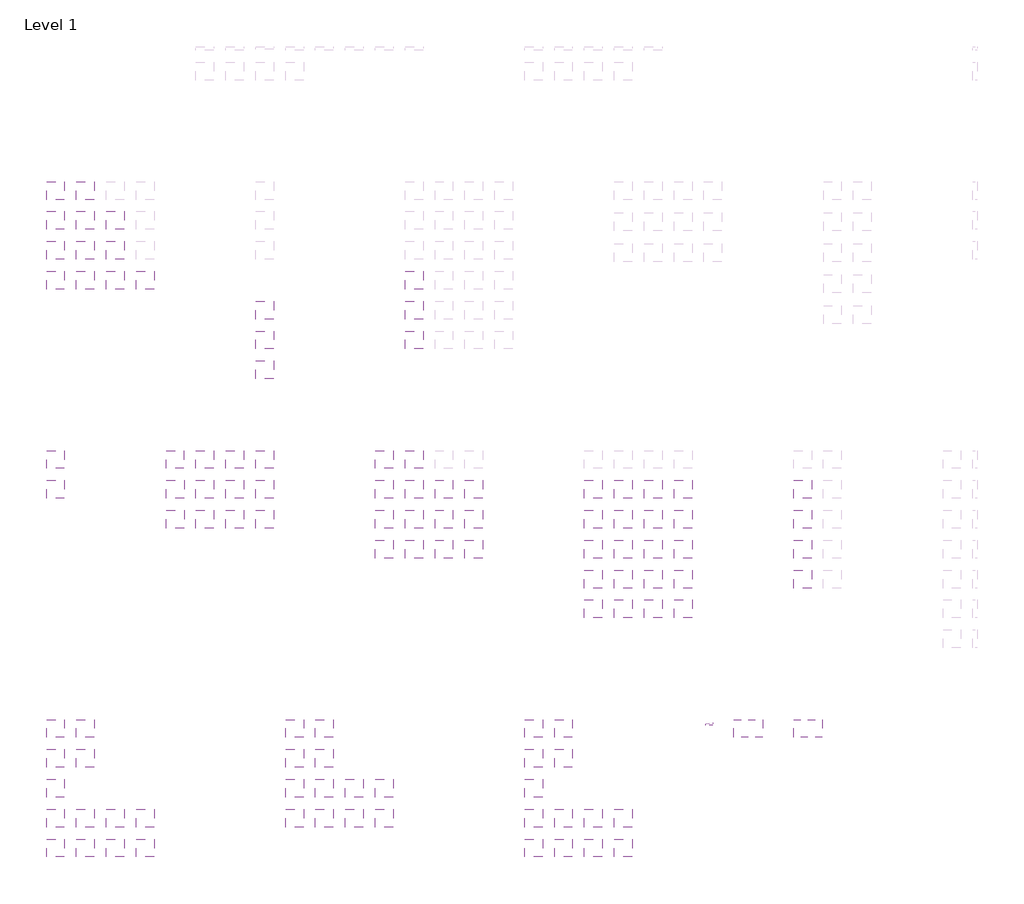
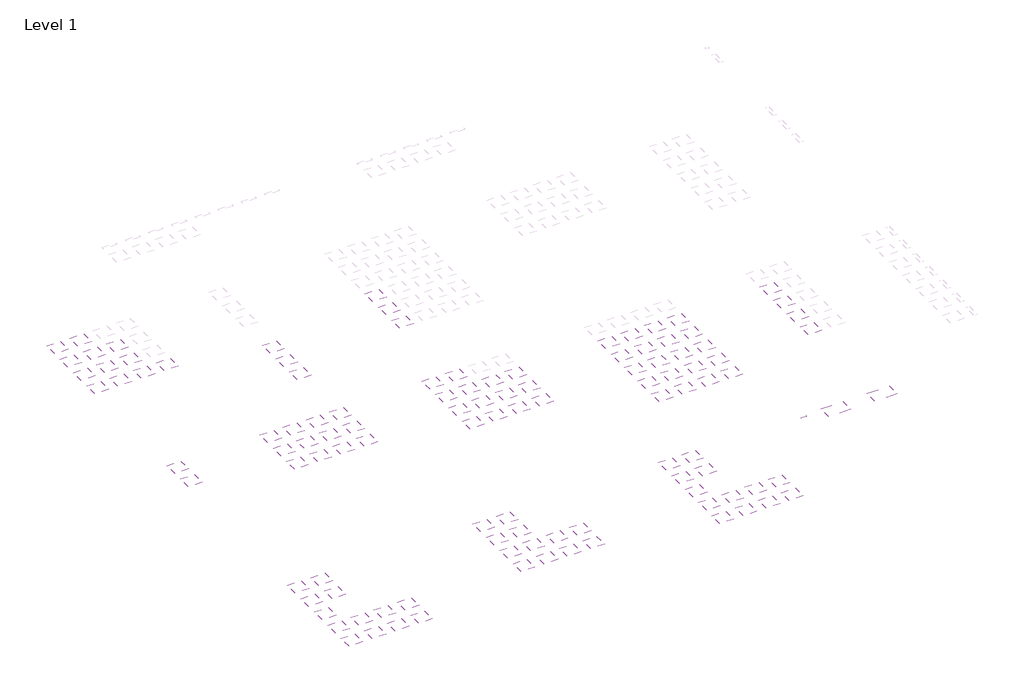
# One storey, part 1 of 4: 111 coverings.
"""IFC4 building model written with IfcOpenShell, lengths in millimetres."""

from ifc_helpers import new_model, si_unit, frame, origin, place, context, project, spatial, polyline, outline, extrude, element, save

model = new_model("IFC4")

# Units and contexts
model_context = context("Model", 3, world=origin())
ifc_project = project(units=[si_unit("LENGTHUNIT", "METRE", prefix="MILLI")], contexts=[model_context])

# Site, building, storey
site = spatial("IfcSite", under=ifc_project)
building = spatial("IfcBuilding", under=site)
storey = spatial("IfcBuildingStorey", under=building, Name="Level 1", Elevation=0.0)

# Coverings
placement = place(None, origin())
element("IfcCovering", 1, ObjectType="OWA Sinfonia l Humancare S3 600x600_15", at=placement, inside=storey, context=model_context, shape_type="SweptSolid", body=[
    extrude(outline(polyline([(58112.2416021, -61373.3850129), (58112.2416021, -64373.3850129), (55112.2416021, -64373.3850129), (55112.2416021, -61373.3850129), (58112.2416021, -61373.3850129)])), frame((0.0, 0.0, 2600.0), z_axis=(0.0, 0.0, 1.0), x_axis=(1.0, 0.0, 0.0)), (0.0, 0.0, 1.0), 38.0),
])
element("IfcCovering", 2, ObjectType="OWA Sinfonia l Humancare S3a 625x625_15", at=placement, inside=storey, context=model_context, shape_type="SweptSolid", body=[
    extrude(outline(polyline([(68112.2416021, -66373.3850129), (68112.2416021, -69373.3850129), (65112.2416021, -69373.3850129), (65112.2416021, -66373.3850129), (68112.2416021, -66373.3850129)])), frame((0.0, 0.0, 2600.0), z_axis=(0.0, 0.0, 1.0), x_axis=(1.0, 0.0, 0.0)), (0.0, 0.0, 1.0), 38.0),
])
element("IfcCovering", 3, ObjectType="OWA Sinfonia l Humancare S15a cliq 600x600_15", at=placement, inside=storey, context=model_context, shape_type="SweptSolid", body=[
    extrude(outline(polyline([(58112.2416021, -76373.3850129), (58112.2416021, -79373.3850129), (55112.2416021, -79373.3850129), (55112.2416021, -76373.3850129), (58112.2416021, -76373.3850129)])), frame((0.0, 0.0, 2600.0), z_axis=(0.0, 0.0, 1.0), x_axis=(1.0, 0.0, 0.0)), (0.0, 0.0, 1.0), 38.0),
])
element("IfcCovering", 4, ObjectType="OWA Sinfonia l Humancare S3a 600x600_15", at=placement, inside=storey, context=model_context, shape_type="SweptSolid", body=[
    extrude(outline(polyline([(58112.2416021, -66373.3850129), (58112.2416021, -69373.3850129), (55112.2416021, -69373.3850129), (55112.2416021, -66373.3850129), (58112.2416021, -66373.3850129)])), frame((0.0, 0.0, 2600.0), z_axis=(0.0, 0.0, 1.0), x_axis=(1.0, 0.0, 0.0)), (0.0, 0.0, 1.0), 38.0),
])
element("IfcCovering", 5, ObjectType="OWA Sinfonia l Humancare S15a cliq 625x625_15", at=placement, inside=storey, context=model_context, shape_type="SweptSolid", body=[
    extrude(outline(polyline([(68112.2416021, -76373.3850129), (68112.2416021, -79373.3850129), (65112.2416021, -79373.3850129), (65112.2416021, -76373.3850129), (68112.2416021, -76373.3850129)])), frame((0.0, 0.0, 2600.0), z_axis=(0.0, 0.0, 1.0), x_axis=(1.0, 0.0, 0.0)), (0.0, 0.0, 1.0), 38.0),
])
element("IfcCovering", 6, ObjectType="OWA Sinfonia l Humancare S15a cliq 600x1200_15", at=placement, inside=storey, context=model_context, shape_type="SweptSolid", body=[
    extrude(outline(polyline([(63112.2416021, -76373.3850129), (63112.2416021, -79373.3850129), (60112.2416021, -79373.3850129), (60112.2416021, -76373.3850129), (63112.2416021, -76373.3850129)])), frame((0.0, 0.0, 2600.0), z_axis=(0.0, 0.0, 1.0), x_axis=(1.0, 0.0, 0.0)), (0.0, 0.0, 1.0), 38.0),
])
element("IfcCovering", 7, ObjectType="OWA Sinfonia l Humancare S3 600x1200_15", at=placement, inside=storey, context=model_context, shape_type="SweptSolid", body=[
    extrude(outline(polyline([(63112.2416021, -61373.3850129), (63112.2416021, -64373.3850129), (60112.2416021, -64373.3850129), (60112.2416021, -61373.3850129), (63112.2416021, -61373.3850129)])), frame((0.0, 0.0, 2600.0), z_axis=(0.0, 0.0, 1.0), x_axis=(1.0, 0.0, 0.0)), (0.0, 0.0, 1.0), 38.0),
])
element("IfcCovering", 8, ObjectType="OWA Sinfonia l Humancare S3a 625x1250_15", at=placement, inside=storey, context=model_context, shape_type="SweptSolid", body=[
    extrude(outline(polyline([(73110.2416021, -66373.3850129), (73110.2416021, -69373.3850129), (70110.2416021, -69373.3850129), (70110.2416021, -66373.3850129), (73110.2416021, -66373.3850129)])), frame((0.0, 0.0, 2600.0), z_axis=(0.0, 0.0, 1.0), x_axis=(1.0, 0.0, 0.0)), (0.0, 0.0, 1.0), 38.0),
])
element("IfcCovering", 9, ObjectType="OWA Sinfonia l Humancare S3a 600x1200_15", at=placement, inside=storey, context=model_context, shape_type="SweptSolid", body=[
    extrude(outline(polyline([(63112.2416021, -66373.3850129), (63112.2416021, -69373.3850129), (60112.2416021, -69373.3850129), (60112.2416021, -66373.3850129), (63112.2416021, -66373.3850129)])), frame((0.0, 0.0, 2600.0), z_axis=(0.0, 0.0, 1.0), x_axis=(1.0, 0.0, 0.0)), (0.0, 0.0, 1.0), 38.0),
])
element("IfcCovering", 10, ObjectType="OWA Sinfonia l Humancare S15a cliq 625x1250_15", at=placement, inside=storey, context=model_context, shape_type="SweptSolid", body=[
    extrude(outline(polyline([(73112.2416021, -76373.3850129), (73112.2416021, -79373.3850129), (70112.2416021, -79373.3850129), (70112.2416021, -76373.3850129), (73112.2416021, -76373.3850129)])), frame((0.0, 0.0, 2600.0), z_axis=(0.0, 0.0, 1.0), x_axis=(1.0, 0.0, 0.0)), (0.0, 0.0, 1.0), 38.0),
])
element("IfcCovering", 11, ObjectType="OWA New Sandila/N S15 cliq 600x600_15", at=placement, inside=storey, context=model_context, shape_type="SweptSolid", body=[
    extrude(outline(polyline([(63114.2416021, -36373.3850129), (63114.2416021, -39373.3850129), (60114.2416021, -39373.3850129), (60114.2416021, -36373.3850129), (63114.2416021, -36373.3850129)])), frame((0.0, 0.0, 2600.0), z_axis=(0.0, 0.0, 1.0), x_axis=(1.0, 0.0, 0.0)), (0.0, 0.0, 1.0), 38.0),
])
element("IfcCovering", 12, ObjectType="OWA New Sandila/N S15a cliq 600x600_15", at=placement, inside=storey, context=model_context, shape_type="SweptSolid", body=[
    extrude(outline(polyline([(63114.2416021, -41373.3850129), (63114.2416021, -44373.3850129), (60114.2416021, -44373.3850129), (60114.2416021, -41373.3850129), (63114.2416021, -41373.3850129)])), frame((0.0, 0.0, 2600.0), z_axis=(0.0, 0.0, 1.0), x_axis=(1.0, 0.0, 0.0)), (0.0, 0.0, 1.0), 38.0),
])
element("IfcCovering", 13, ObjectType="OWA New Sandila/N S3a cliq 600x600_15", at=placement, inside=storey, context=model_context, shape_type="SweptSolid", body=[
    extrude(outline(polyline([(63114.2416021, -31373.3850129), (63114.2416021, -34373.3850129), (60114.2416021, -34373.3850129), (60114.2416021, -31373.3850129), (63114.2416021, -31373.3850129)])), frame((0.0, 0.0, 2600.0), z_axis=(0.0, 0.0, 1.0), x_axis=(1.0, 0.0, 0.0)), (0.0, 0.0, 1.0), 38.0),
])
element("IfcCovering", 14, ObjectType="OWA Sinfonia grey S3 600x600_15", at=placement, inside=storey, context=model_context, shape_type="SweptSolid", body=[
    extrude(outline(polyline([(23110.2416021, -61373.3850129), (23110.2416021, -64373.3850129), (20110.2416021, -64373.3850129), (20110.2416021, -61373.3850129), (23110.2416021, -61373.3850129)])), frame((0.0, 0.0, 2600.0), z_axis=(0.0, 0.0, 1.0), x_axis=(1.0, 0.0, 0.0)), (0.0, 0.0, 1.0), 38.0),
])
element("IfcCovering", 15, ObjectType="OWA Sinfonia grey S3 625x625_15", at=placement, inside=storey, context=model_context, shape_type="SweptSolid", body=[
    extrude(outline(polyline([(33110.2416021, -61373.3850129), (33110.2416021, -64373.3850129), (30110.2416021, -64373.3850129), (30110.2416021, -61373.3850129), (33110.2416021, -61373.3850129)])), frame((0.0, 0.0, 2600.0), z_axis=(0.0, 0.0, 1.0), x_axis=(1.0, 0.0, 0.0)), (0.0, 0.0, 1.0), 38.0),
])
element("IfcCovering", 16, ObjectType="OWA Sinfonia grey S3 600x1200_15", at=placement, inside=storey, context=model_context, shape_type="SweptSolid", body=[
    extrude(outline(polyline([(28112.2416021, -61373.3850129), (28112.2416021, -64373.3850129), (25112.2416021, -64373.3850129), (25112.2416021, -61373.3850129), (28112.2416021, -61373.3850129)])), frame((0.0, 0.0, 2600.0), z_axis=(0.0, 0.0, 1.0), x_axis=(1.0, 0.0, 0.0)), (0.0, 0.0, 1.0), 38.0),
])
element("IfcCovering", 17, ObjectType="OWA Sinfonia grey S3 625x1250_15", at=placement, inside=storey, context=model_context, shape_type="SweptSolid", body=[
    extrude(outline(polyline([(38112.2416021, -61373.3850129), (38112.2416021, -64373.3850129), (35112.2416021, -64373.3850129), (35112.2416021, -61373.3850129), (38112.2416021, -61373.3850129)])), frame((0.0, 0.0, 2600.0), z_axis=(0.0, 0.0, 1.0), x_axis=(1.0, 0.0, 0.0)), (0.0, 0.0, 1.0), 38.0),
])
element("IfcCovering", 18, ObjectType="OWA Sinfonia grey S3 cliq 600x600_15", at=placement, inside=storey, context=model_context, shape_type="SweptSolid", body=[
    extrude(outline(polyline([(23112.2416021, -66373.3850129), (23112.2416021, -69373.3850129), (20112.2416021, -69373.3850129), (20112.2416021, -66373.3850129), (23112.2416021, -66373.3850129)])), frame((0.0, 0.0, 2600.0), z_axis=(0.0, 0.0, 1.0), x_axis=(1.0, 0.0, 0.0)), (0.0, 0.0, 1.0), 38.0),
])
element("IfcCovering", 19, ObjectType="OWA Sinfonia grey S3 cliq 625x625_15", at=placement, inside=storey, context=model_context, shape_type="SweptSolid", body=[
    extrude(outline(polyline([(33110.2416021, -66373.3850129), (33110.2416021, -69373.3850129), (30110.2416021, -69373.3850129), (30110.2416021, -66373.3850129), (33110.2416021, -66373.3850129)])), frame((0.0, 0.0, 2600.0), z_axis=(0.0, 0.0, 1.0), x_axis=(1.0, 0.0, 0.0)), (0.0, 0.0, 1.0), 38.0),
])
element("IfcCovering", 20, ObjectType="OWA Sinfonia grey S3 cliq 600x1200_15", at=placement, inside=storey, context=model_context, shape_type="SweptSolid", body=[
    extrude(outline(polyline([(28112.2416021, -66373.3850129), (28112.2416021, -69373.3850129), (25112.2416021, -69373.3850129), (25112.2416021, -66373.3850129), (28112.2416021, -66373.3850129)])), frame((0.0, 0.0, 2600.0), z_axis=(0.0, 0.0, 1.0), x_axis=(1.0, 0.0, 0.0)), (0.0, 0.0, 1.0), 38.0),
])
element("IfcCovering", 21, ObjectType="OWA Sinfonia grey S3 cliq 625x1250_15", at=placement, inside=storey, context=model_context, shape_type="SweptSolid", body=[
    extrude(outline(polyline([(38112.2416021, -66373.3850129), (38112.2416021, -69373.3850129), (35112.2416021, -69373.3850129), (35112.2416021, -66373.3850129), (38112.2416021, -66373.3850129)])), frame((0.0, 0.0, 2600.0), z_axis=(0.0, 0.0, 1.0), x_axis=(1.0, 0.0, 0.0)), (0.0, 0.0, 1.0), 38.0),
])
element("IfcCovering", 22, ObjectType="OWA Sinfonia grey S15 cliq 600x600_15", at=placement, inside=storey, context=model_context, shape_type="SweptSolid", body=[
    extrude(outline(polyline([(23112.2416021, -71373.3850129), (23112.2416021, -74373.3850129), (20112.2416021, -74373.3850129), (20112.2416021, -71373.3850129), (23112.2416021, -71373.3850129)])), frame((0.0, 0.0, 2600.0), z_axis=(0.0, 0.0, 1.0), x_axis=(1.0, 0.0, 0.0)), (0.0, 0.0, 1.0), 38.0),
])
element("IfcCovering", 23, ObjectType="OWA Sinfonia grey S15 cliq 625x625_15", at=placement, inside=storey, context=model_context, shape_type="SweptSolid", body=[
    extrude(outline(polyline([(33110.2416021, -71373.3850129), (33110.2416021, -74373.3850129), (30110.2416021, -74373.3850129), (30110.2416021, -71373.3850129), (33110.2416021, -71373.3850129)])), frame((0.0, 0.0, 2600.0), z_axis=(0.0, 0.0, 1.0), x_axis=(1.0, 0.0, 0.0)), (0.0, 0.0, 1.0), 38.0),
])
element("IfcCovering", 24, ObjectType="OWA Sinfonia grey S15 cliq 600x1200_15", at=placement, inside=storey, context=model_context, shape_type="SweptSolid", body=[
    extrude(outline(polyline([(28112.2416021, -71373.3850129), (28112.2416021, -74373.3850129), (25112.2416021, -74373.3850129), (25112.2416021, -71373.3850129), (28112.2416021, -71373.3850129)])), frame((0.0, 0.0, 2600.0), z_axis=(0.0, 0.0, 1.0), x_axis=(1.0, 0.0, 0.0)), (0.0, 0.0, 1.0), 38.0),
])
element("IfcCovering", 25, ObjectType="OWA Sinfonia grey S15 cliq 625x1250_15", at=placement, inside=storey, context=model_context, shape_type="SweptSolid", body=[
    extrude(outline(polyline([(38112.2416021, -71373.3850129), (38112.2416021, -74373.3850129), (35112.2416021, -74373.3850129), (35112.2416021, -71373.3850129), (38112.2416021, -71373.3850129)])), frame((0.0, 0.0, 2600.0), z_axis=(0.0, 0.0, 1.0), x_axis=(1.0, 0.0, 0.0)), (0.0, 0.0, 1.0), 38.0),
])
element("IfcCovering", 26, ObjectType="OWA Sinfonia Privacy S3a 600x600_20", at=placement, inside=storey, context=model_context, shape_type="SweptSolid", body=[
    extrude(outline(polyline([(93110.2416021, -71373.3850129), (93110.2416021, -74373.3850129), (90110.2416021, -74373.3850129), (90110.2416021, -71373.3850129), (93110.2416021, -71373.3850129)])), frame((0.0, 0.0, 2600.0), z_axis=(0.0, 0.0, 1.0), x_axis=(1.0, 0.0, 0.0)), (0.0, 0.0, 1.0), 38.0),
])
element("IfcCovering", 27, ObjectType="OWA Sinfonia Privacy S3a 625x625_20", at=placement, inside=storey, context=model_context, shape_type="SweptSolid", body=[
    extrude(outline(polyline([(103114.2416021, -71373.3850129), (103114.2416021, -74373.3850129), (100114.2416021, -74373.3850129), (100114.2416021, -71373.3850129), (103114.2416021, -71373.3850129)])), frame((0.0, 0.0, 2600.0), z_axis=(0.0, 0.0, 1.0), x_axis=(1.0, 0.0, 0.0)), (0.0, 0.0, 1.0), 38.0),
])
element("IfcCovering", 28, ObjectType="OWA Sinfonia Privacy S3a 600x1200_20", at=placement, inside=storey, context=model_context, shape_type="SweptSolid", body=[
    extrude(outline(polyline([(98112.2416021, -71373.3850129), (98112.2416021, -74373.3850129), (95112.2416021, -74373.3850129), (95112.2416021, -71373.3850129), (98112.2416021, -71373.3850129)])), frame((0.0, 0.0, 2600.0), z_axis=(0.0, 0.0, 1.0), x_axis=(1.0, 0.0, 0.0)), (0.0, 0.0, 1.0), 38.0),
])
element("IfcCovering", 29, ObjectType="OWA Sinfonia Privacy S3a 625x1250_20", at=placement, inside=storey, context=model_context, shape_type="SweptSolid", body=[
    extrude(outline(polyline([(108112.2416021, -71373.3850129), (108112.2416021, -74373.3850129), (105112.2416021, -74373.3850129), (105112.2416021, -71373.3850129), (108112.2416021, -71373.3850129)])), frame((0.0, 0.0, 2600.0), z_axis=(0.0, 0.0, 1.0), x_axis=(1.0, 0.0, 0.0)), (0.0, 0.0, 1.0), 38.0),
])
element("IfcCovering", 30, ObjectType="OWA Sinfonia Privacy S3 cliq 600x600_20", at=placement, inside=storey, context=model_context, shape_type="SweptSolid", body=[
    extrude(outline(polyline([(93110.2416021, -66373.3850129), (93110.2416021, -69373.3850129), (90110.2416021, -69373.3850129), (90110.2416021, -66373.3850129), (93110.2416021, -66373.3850129)])), frame((0.0, 0.0, 2600.0), z_axis=(0.0, 0.0, 1.0), x_axis=(1.0, 0.0, 0.0)), (0.0, 0.0, 1.0), 38.0),
])
element("IfcCovering", 31, ObjectType="OWA Sinfonia Privacy S3 cliq 625x625_20", at=placement, inside=storey, context=model_context, shape_type="SweptSolid", body=[
    extrude(outline(polyline([(103114.2416021, -66373.3850129), (103114.2416021, -69373.3850129), (100114.2416021, -69373.3850129), (100114.2416021, -66373.3850129), (103114.2416021, -66373.3850129)])), frame((0.0, 0.0, 2600.0), z_axis=(0.0, 0.0, 1.0), x_axis=(1.0, 0.0, 0.0)), (0.0, 0.0, 1.0), 38.0),
])
element("IfcCovering", 32, ObjectType="OWA Sinfonia Privacy S3 cliq 600x1200_20", at=placement, inside=storey, context=model_context, shape_type="SweptSolid", body=[
    extrude(outline(polyline([(98112.2416021, -66373.3850129), (98112.2416021, -69373.3850129), (95112.2416021, -69373.3850129), (95112.2416021, -66373.3850129), (98112.2416021, -66373.3850129)])), frame((0.0, 0.0, 2600.0), z_axis=(0.0, 0.0, 1.0), x_axis=(1.0, 0.0, 0.0)), (0.0, 0.0, 1.0), 38.0),
])
element("IfcCovering", 33, ObjectType="OWA Sinfonia Privacy S3 cliq 625x1250_20", at=placement, inside=storey, context=model_context, shape_type="SweptSolid", body=[
    extrude(outline(polyline([(108112.2416021, -66373.3850129), (108112.2416021, -69373.3850129), (105112.2416021, -69373.3850129), (105112.2416021, -66373.3850129), (108112.2416021, -66373.3850129)])), frame((0.0, 0.0, 2600.0), z_axis=(0.0, 0.0, 1.0), x_axis=(1.0, 0.0, 0.0)), (0.0, 0.0, 1.0), 38.0),
])
element("IfcCovering", 34, ObjectType="OWA Sinfonia Privacy S3a cliq 600x600_20", at=placement, inside=storey, context=model_context, shape_type="SweptSolid", body=[
    extrude(outline(polyline([(93110.2416021, -76373.3850129), (93110.2416021, -79373.3850129), (90110.2416021, -79373.3850129), (90110.2416021, -76373.3850129), (93110.2416021, -76373.3850129)])), frame((0.0, 0.0, 2600.0), z_axis=(0.0, 0.0, 1.0), x_axis=(1.0, 0.0, 0.0)), (0.0, 0.0, 1.0), 38.0),
])
element("IfcCovering", 35, ObjectType="OWA Sinfonia Privacy S3a cliq 625x625_20", at=placement, inside=storey, context=model_context, shape_type="SweptSolid", body=[
    extrude(outline(polyline([(103114.2416021, -76373.3850129), (103114.2416021, -79373.3850129), (100114.2416021, -79373.3850129), (100114.2416021, -76373.3850129), (103114.2416021, -76373.3850129)])), frame((0.0, 0.0, 2600.0), z_axis=(0.0, 0.0, 1.0), x_axis=(1.0, 0.0, 0.0)), (0.0, 0.0, 1.0), 38.0),
])
element("IfcCovering", 36, ObjectType="OWA Sinfonia Privacy S3a cliq 600x1200_20", at=placement, inside=storey, context=model_context, shape_type="SweptSolid", body=[
    extrude(outline(polyline([(98112.2416021, -76373.3850129), (98112.2416021, -79373.3850129), (95112.2416021, -79373.3850129), (95112.2416021, -76373.3850129), (98112.2416021, -76373.3850129)])), frame((0.0, 0.0, 2600.0), z_axis=(0.0, 0.0, 1.0), x_axis=(1.0, 0.0, 0.0)), (0.0, 0.0, 1.0), 38.0),
])
element("IfcCovering", 37, ObjectType="OWA Sinfonia Privacy S3a cliq 625x1250_20", at=placement, inside=storey, context=model_context, shape_type="SweptSolid", body=[
    extrude(outline(polyline([(108112.2416021, -76373.3850129), (108112.2416021, -79373.3850129), (105112.2416021, -79373.3850129), (105112.2416021, -76373.3850129), (108112.2416021, -76373.3850129)])), frame((0.0, 0.0, 2600.0), z_axis=(0.0, 0.0, 1.0), x_axis=(1.0, 0.0, 0.0)), (0.0, 0.0, 1.0), 38.0),
])
element("IfcCovering", 38, ObjectType="OWA Sinfonia Privacy S15 cliq 600x600_20", at=placement, inside=storey, context=model_context, shape_type="SweptSolid", body=[
    extrude(outline(polyline([(93110.2416021, -81373.3850129), (93110.2416021, -84373.3850129), (90110.2416021, -84373.3850129), (90110.2416021, -81373.3850129), (93110.2416021, -81373.3850129)])), frame((0.0, 0.0, 2600.0), z_axis=(0.0, 0.0, 1.0), x_axis=(1.0, 0.0, 0.0)), (0.0, 0.0, 1.0), 38.0),
])
element("IfcCovering", 39, ObjectType="OWA Sinfonia Privacy S15 cliq 625x625_20", at=placement, inside=storey, context=model_context, shape_type="SweptSolid", body=[
    extrude(outline(polyline([(103114.2416021, -81373.3850129), (103114.2416021, -84373.3850129), (100114.2416021, -84373.3850129), (100114.2416021, -81373.3850129), (103114.2416021, -81373.3850129)])), frame((0.0, 0.0, 2600.0), z_axis=(0.0, 0.0, 1.0), x_axis=(1.0, 0.0, 0.0)), (0.0, 0.0, 1.0), 38.0),
])
element("IfcCovering", 40, ObjectType="OWA Sinfonia Privacy S15 cliq 600x1200_20", at=placement, inside=storey, context=model_context, shape_type="SweptSolid", body=[
    extrude(outline(polyline([(98112.2416021, -81373.3850129), (98112.2416021, -84373.3850129), (95112.2416021, -84373.3850129), (95112.2416021, -81373.3850129), (98112.2416021, -81373.3850129)])), frame((0.0, 0.0, 2600.0), z_axis=(0.0, 0.0, 1.0), x_axis=(1.0, 0.0, 0.0)), (0.0, 0.0, 1.0), 38.0),
])
element("IfcCovering", 41, ObjectType="OWA Sinfonia Privacy S15 cliq 625x1250_20", at=placement, inside=storey, context=model_context, shape_type="SweptSolid", body=[
    extrude(outline(polyline([(108112.2416021, -81373.3850129), (108112.2416021, -84373.3850129), (105112.2416021, -84373.3850129), (105112.2416021, -81373.3850129), (108112.2416021, -81373.3850129)])), frame((0.0, 0.0, 2600.0), z_axis=(0.0, 0.0, 1.0), x_axis=(1.0, 0.0, 0.0)), (0.0, 0.0, 1.0), 38.0),
])
element("IfcCovering", 42, ObjectType="OWA Sinfonia Privacy S15a cliq 600x600_20", at=placement, inside=storey, context=model_context, shape_type="SweptSolid", body=[
    extrude(outline(polyline([(93110.2416021, -86373.3850129), (93110.2416021, -89373.3850129), (90110.2416021, -89373.3850129), (90110.2416021, -86373.3850129), (93110.2416021, -86373.3850129)])), frame((0.0, 0.0, 2600.0), z_axis=(0.0, 0.0, 1.0), x_axis=(1.0, 0.0, 0.0)), (0.0, 0.0, 1.0), 38.0),
])
element("IfcCovering", 43, ObjectType="OWA Sinfonia Privacy S15a cliq 600x1200_20", at=placement, inside=storey, context=model_context, shape_type="SweptSolid", body=[
    extrude(outline(polyline([(98112.2416021, -86373.3850129), (98112.2416021, -89373.3850129), (95112.2416021, -89373.3850129), (95112.2416021, -86373.3850129), (98112.2416021, -86373.3850129)])), frame((0.0, 0.0, 2600.0), z_axis=(0.0, 0.0, 1.0), x_axis=(1.0, 0.0, 0.0)), (0.0, 0.0, 1.0), 38.0),
])
element("IfcCovering", 44, ObjectType="OWA Sinfonia Privacy S15a cliq 625x1250_20", at=placement, inside=storey, context=model_context, shape_type="SweptSolid", body=[
    extrude(outline(polyline([(108112.2416021, -86373.3850129), (108112.2416021, -89373.3850129), (105112.2416021, -89373.3850129), (105112.2416021, -86373.3850129), (108112.2416021, -86373.3850129)])), frame((0.0, 0.0, 2600.0), z_axis=(0.0, 0.0, 1.0), x_axis=(1.0, 0.0, 0.0)), (0.0, 0.0, 1.0), 38.0),
])
element("IfcCovering", 45, ObjectType="OWA Sinfonia Privacy S15a cliq 625x625_20", at=placement, inside=storey, context=model_context, shape_type="SweptSolid", body=[
    extrude(outline(polyline([(103114.2416021, -86373.3850129), (103114.2416021, -89373.3850129), (100114.2416021, -89373.3850129), (100114.2416021, -86373.3850129), (103114.2416021, -86373.3850129)])), frame((0.0, 0.0, 2600.0), z_axis=(0.0, 0.0, 1.0), x_axis=(1.0, 0.0, 0.0)), (0.0, 0.0, 1.0), 38.0),
])
element("IfcCovering", 46, ObjectType="OWA Sinfonia Reflecta S15 cliq 600x600_15", at=placement, inside=storey, context=model_context, shape_type="SweptSolid", body=[
    extrude(outline(polyline([(128108.2416021, -81373.3850129), (128108.2416021, -84373.3850129), (125108.2416021, -84373.3850129), (125108.2416021, -81373.3850129), (128108.2416021, -81373.3850129)])), frame((0.0, 0.0, 2600.0), z_axis=(0.0, 0.0, 1.0), x_axis=(1.0, 0.0, 0.0)), (0.0, 0.0, 1.0), 38.0),
])
element("IfcCovering", 47, ObjectType="OWA Sinfonia Reflecta S3a 600x600_15", at=placement, inside=storey, context=model_context, shape_type="SweptSolid", body=[
    extrude(outline(polyline([(128108.2416021, -71373.3850129), (128108.2416021, -74373.3850129), (125108.2416021, -74373.3850129), (125108.2416021, -71373.3850129), (128108.2416021, -71373.3850129)])), frame((0.0, 0.0, 2600.0), z_axis=(0.0, 0.0, 1.0), x_axis=(1.0, 0.0, 0.0)), (0.0, 0.0, 1.0), 38.0),
])
element("IfcCovering", 48, ObjectType="OWA Sinfonia FR S3 625 x 625_15", at=placement, inside=storey, context=model_context, shape_type="SweptSolid", body=[
    extrude(outline(polyline([(3112.2416021, -61373.3850129), (3112.2416021, -64373.3850129), (112.2416021, -64373.3850129), (112.2416021, -61373.3850129), (3112.2416021, -61373.3850129)])), frame((0.0, 0.0, 2600.0), z_axis=(0.0, 0.0, 1.0), x_axis=(1.0, 0.0, 0.0)), (0.0, 0.0, 1.0), 38.0),
])
element("IfcCovering", 49, ObjectType="OWA Sinfonia FR S15 cliq 625 x 625_15", at=placement, inside=storey, context=model_context, shape_type="SweptSolid", body=[
    extrude(outline(polyline([(3112.2416021, -66373.3850129), (3112.2416021, -69373.3850129), (112.2416021, -69373.3850129), (112.2416021, -66373.3850129), (3112.2416021, -66373.3850129)])), frame((0.0, 0.0, 2600.0), z_axis=(0.0, 0.0, 1.0), x_axis=(1.0, 0.0, 0.0)), (0.0, 0.0, 1.0), 38.0),
])
element("IfcCovering", 50, ObjectType="OWA Humancare Pro S3 600x600_20", at=placement, inside=storey, context=model_context, shape_type="SweptSolid", body=[
    extrude(outline(polyline([(3112.2416021, -16373.3850129), (3112.2416021, -19373.3850129), (112.2416021, -19373.3850129), (112.2416021, -16373.3850129), (3112.2416021, -16373.3850129)])), frame((0.0, 0.0, 2600.0), z_axis=(0.0, 0.0, 1.0), x_axis=(1.0, 0.0, 0.0)), (0.0, 0.0, 1.0), 38.0),
])
element("IfcCovering", 51, ObjectType="OWA Humancare Pro S3 600x1200_20", at=placement, inside=storey, context=model_context, shape_type="SweptSolid", body=[
    extrude(outline(polyline([(8112.2416021, -16373.3850129), (8112.2416021, -19373.3850129), (5112.2416021, -19373.3850129), (5112.2416021, -16373.3850129), (8112.2416021, -16373.3850129)])), frame((0.0, 0.0, 2600.0), z_axis=(0.0, 0.0, 1.0), x_axis=(1.0, 0.0, 0.0)), (0.0, 0.0, 1.0), 38.0),
])
element("IfcCovering", 52, ObjectType="OWA Humancare Pro S3 cliq 625x625_20", at=placement, inside=storey, context=model_context, shape_type="SweptSolid", body=[
    extrude(outline(polyline([(13112.2416021, -21373.3850129), (13112.2416021, -24373.3850129), (10112.2416021, -24373.3850129), (10112.2416021, -21373.3850129), (13112.2416021, -21373.3850129)])), frame((0.0, 0.0, 2600.0), z_axis=(0.0, 0.0, 1.0), x_axis=(1.0, 0.0, 0.0)), (0.0, 0.0, 1.0), 38.0),
])
element("IfcCovering", 53, ObjectType="OWA Humancare Pro S3 cliq 600x600_20", at=placement, inside=storey, context=model_context, shape_type="SweptSolid", body=[
    extrude(outline(polyline([(3112.2416021, -21373.3850129), (3112.2416021, -24373.3850129), (112.2416021, -24373.3850129), (112.2416021, -21373.3850129), (3112.2416021, -21373.3850129)])), frame((0.0, 0.0, 2600.0), z_axis=(0.0, 0.0, 1.0), x_axis=(1.0, 0.0, 0.0)), (0.0, 0.0, 1.0), 38.0),
])
element("IfcCovering", 54, ObjectType="OWA Humancare Pro S15 cliq 625x625_20", at=placement, inside=storey, context=model_context, shape_type="SweptSolid", body=[
    extrude(outline(polyline([(13114.2416021, -31373.3850129), (13114.2416021, -34373.3850129), (10114.2416021, -34373.3850129), (10114.2416021, -31373.3850129), (13114.2416021, -31373.3850129)])), frame((0.0, 0.0, 2600.0), z_axis=(0.0, 0.0, 1.0), x_axis=(1.0, 0.0, 0.0)), (0.0, 0.0, 1.0), 38.0),
])
element("IfcCovering", 55, ObjectType="OWA Humancare Pro S15 cliq 600x600_20", at=placement, inside=storey, context=model_context, shape_type="SweptSolid", body=[
    extrude(outline(polyline([(3114.2416021, -31373.3850129), (3114.2416021, -34373.3850129), (114.2416021, -34373.3850129), (114.2416021, -31373.3850129), (3114.2416021, -31373.3850129)])), frame((0.0, 0.0, 2600.0), z_axis=(0.0, 0.0, 1.0), x_axis=(1.0, 0.0, 0.0)), (0.0, 0.0, 1.0), 38.0),
])
element("IfcCovering", 56, ObjectType="OWA Humancare Pro S15 cliq 625x1250_20", at=placement, inside=storey, context=model_context, shape_type="SweptSolid", body=[
    extrude(outline(polyline([(18114.2416021, -31373.3850129), (18114.2416021, -34373.3850129), (15114.2416021, -34373.3850129), (15114.2416021, -31373.3850129), (18114.2416021, -31373.3850129)])), frame((0.0, 0.0, 2600.0), z_axis=(0.0, 0.0, 1.0), x_axis=(1.0, 0.0, 0.0)), (0.0, 0.0, 1.0), 38.0),
])
element("IfcCovering", 57, ObjectType="OWA Humancare Pro S3e 625x625_20", at=placement, inside=storey, context=model_context, shape_type="SweptSolid", body=[
    extrude(outline(polyline([(13114.2416021, -26373.3850129), (13114.2416021, -29373.3850129), (10114.2416021, -29373.3850129), (10114.2416021, -26373.3850129), (13114.2416021, -26373.3850129)])), frame((0.0, 0.0, 2600.0), z_axis=(0.0, 0.0, 1.0), x_axis=(1.0, 0.0, 0.0)), (0.0, 0.0, 1.0), 38.0),
])
element("IfcCovering", 58, ObjectType="OWA Humancare Pro S3e 600x600_20", at=placement, inside=storey, context=model_context, shape_type="SweptSolid", body=[
    extrude(outline(polyline([(3114.2416021, -26373.3850129), (3114.2416021, -29373.3850129), (114.2416021, -29373.3850129), (114.2416021, -26373.3850129), (3114.2416021, -26373.3850129)])), frame((0.0, 0.0, 2600.0), z_axis=(0.0, 0.0, 1.0), x_axis=(1.0, 0.0, 0.0)), (0.0, 0.0, 1.0), 38.0),
])
element("IfcCovering", 59, ObjectType="OWA Sinfonia Reflecta S3 cliq 600x600_15", at=placement, inside=storey, context=model_context, shape_type="SweptSolid", body=[
    extrude(outline(polyline([(128108.2416021, -66373.3850129), (128108.2416021, -69373.3850129), (125108.2416021, -69373.3850129), (125108.2416021, -66373.3850129), (128108.2416021, -66373.3850129)])), frame((0.0, 0.0, 2600.0), z_axis=(0.0, 0.0, 1.0), x_axis=(1.0, 0.0, 0.0)), (0.0, 0.0, 1.0), 38.0),
])
element("IfcCovering", 60, ObjectType="OWA Sinfonia Reflecta S3a cliq 600x600_15", at=placement, inside=storey, context=model_context, shape_type="SweptSolid", body=[
    extrude(outline(polyline([(128108.2416021, -76373.3850129), (128108.2416021, -79373.3850129), (125108.2416021, -79373.3850129), (125108.2416021, -76373.3850129), (128108.2416021, -76373.3850129)])), frame((0.0, 0.0, 2600.0), z_axis=(0.0, 0.0, 1.0), x_axis=(1.0, 0.0, 0.0)), (0.0, 0.0, 1.0), 38.0),
])
element("IfcCovering", 61, ObjectType="OWA Janus l Cosmos/N S3 625 x 625_33", at=placement, inside=storey, context=model_context, shape_type="SweptSolid", body=[
    extrude(outline(polyline([(38114.2416021, -36373.3850129), (38114.2416021, -39373.3850129), (35114.2416021, -39373.3850129), (35114.2416021, -36373.3850129), (38114.2416021, -36373.3850129)])), frame((0.0, 0.0, 2600.0), z_axis=(0.0, 0.0, 1.0), x_axis=(1.0, 0.0, 0.0)), (0.0, 0.0, 1.0), 56.0),
])
element("IfcCovering", 62, ObjectType="OWA Tecta L0 S22 625x625_0.6", at=placement, inside=storey, context=model_context, shape_type="SweptSolid", body=[
    extrude(outline(polyline([(8112.2416021, -106373.3850129), (8112.2416021, -109373.3850129), (5112.2416021, -109373.3850129), (5112.2416021, -106373.3850129), (8112.2416021, -106373.3850129)])), frame((0.0, 0.0, 2600.0), z_axis=(0.0, 0.0, 1.0), x_axis=(1.0, 0.0, 0.0)), (0.0, 0.0, 1.0), 90.0),
])
element("IfcCovering", 63, ObjectType="OWA Tecta L0 S22 600x600_0.6", at=placement, inside=storey, context=model_context, shape_type="SweptSolid", body=[
    extrude(outline(polyline([(3112.2416021, -106373.3850129), (3112.2416021, -109373.3850129), (112.2416021, -109373.3850129), (112.2416021, -106373.3850129), (3112.2416021, -106373.3850129)])), frame((0.0, 0.0, 2600.0), z_axis=(0.0, 0.0, 1.0), x_axis=(1.0, 0.0, 0.0)), (0.0, 0.0, 1.0), 90.0),
])
element("IfcCovering", 64, ObjectType="OWA Tecta L0 S32 625x625_0.5", at=placement, inside=storey, context=model_context, shape_type="SweptSolid", body=[
    extrude(outline(polyline([(8112.2416021, -111373.3850129), (8112.2416021, -114373.3850129), (5112.2416021, -114373.3850129), (5112.2416021, -111373.3850129), (8112.2416021, -111373.3850129)])), frame((0.0, 0.0, 2600.0), z_axis=(0.0, 0.0, 1.0), x_axis=(1.0, 0.0, 0.0)), (0.0, 0.0, 1.0), 97.0),
])
element("IfcCovering", 65, ObjectType="OWA Tecta L0 S32 600x600_0.5", at=placement, inside=storey, context=model_context, shape_type="SweptSolid", body=[
    extrude(outline(polyline([(3112.2416021, -111373.3850129), (3112.2416021, -114373.3850129), (112.2416021, -114373.3850129), (112.2416021, -111373.3850129), (3112.2416021, -111373.3850129)])), frame((0.0, 0.0, 2600.0), z_axis=(0.0, 0.0, 1.0), x_axis=(1.0, 0.0, 0.0)), (0.0, 0.0, 1.0), 97.0),
])
element("IfcCovering", 66, ObjectType="OWA Tecta L0 S32L 312.5x2000_0.6", at=placement, inside=storey, context=model_context, shape_type="SweptSolid", body=[
    extrude(outline(polyline([(3112.2416021, -116373.3850129), (3112.2416021, -119373.3850129), (112.2416021, -119373.3850129), (112.2416021, -116373.3850129), (3112.2416021, -116373.3850129)])), frame((0.0, 0.0, 2600.0), z_axis=(0.0, 0.0, 1.0), x_axis=(1.0, 0.0, 0.0)), (0.0, 0.0, 1.0), 97.0),
])
element("IfcCovering", 67, ObjectType="OWA Tecta L0 S33 625x625_0.5", at=placement, inside=storey, context=model_context, shape_type="SweptSolid", body=[
    extrude(outline(polyline([(8112.2416021, -121373.3850129), (8112.2416021, -124373.3850129), (5112.2416021, -124373.3850129), (5112.2416021, -121373.3850129), (8112.2416021, -121373.3850129)])), frame((0.0, 0.0, 2600.0), z_axis=(0.0, 0.0, 1.0), x_axis=(1.0, 0.0, 0.0)), (0.0, 0.0, 1.0), 38.0),
])
element("IfcCovering", 68, ObjectType="OWA Tecta L0 S33 600x600_0.5", at=placement, inside=storey, context=model_context, shape_type="SweptSolid", body=[
    extrude(outline(polyline([(3112.2416021, -121373.3850129), (3112.2416021, -124373.3850129), (112.2416021, -124373.3850129), (112.2416021, -121373.3850129), (3112.2416021, -121373.3850129)])), frame((0.0, 0.0, 2600.0), z_axis=(0.0, 0.0, 1.0), x_axis=(1.0, 0.0, 0.0)), (0.0, 0.0, 1.0), 38.0),
])
element("IfcCovering", 69, ObjectType="OWA Tecta L0 S33 Contura 600x600_0.5", at=placement, inside=storey, context=model_context, shape_type="SweptSolid", body=[
    extrude(outline(polyline([(13112.2416021, -121373.3850129), (13112.2416021, -124373.3850129), (10112.2416021, -124373.3850129), (10112.2416021, -121373.3850129), (13112.2416021, -121373.3850129)])), frame((0.0, 0.0, 2600.0), z_axis=(0.0, 0.0, 1.0), x_axis=(1.0, 0.0, 0.0)), (0.0, 0.0, 1.0), 38.0),
])
element("IfcCovering", 70, ObjectType="OWA Tecta L0 S33 Contura 625x625_0.5", at=placement, inside=storey, context=model_context, shape_type="SweptSolid", body=[
    extrude(outline(polyline([(18112.2416021, -121373.3850129), (18112.2416021, -124373.3850129), (15112.2416021, -124373.3850129), (15112.2416021, -121373.3850129), (18112.2416021, -121373.3850129)])), frame((0.0, 0.0, 2600.0), z_axis=(0.0, 0.0, 1.0), x_axis=(1.0, 0.0, 0.0)), (0.0, 0.0, 1.0), 38.0),
])
element("IfcCovering", 71, ObjectType="OWA Tecta L0 S45 625x625_0.5", at=placement, inside=storey, context=model_context, shape_type="SweptSolid", body=[
    extrude(outline(polyline([(8112.2416021, -126373.3850129), (8112.2416021, -129373.3850129), (5112.2416021, -129373.3850129), (5112.2416021, -126373.3850129), (8112.2416021, -126373.3850129)])), frame((0.0, 0.0, 2600.0), z_axis=(0.0, 0.0, 1.0), x_axis=(1.0, 0.0, 0.0)), (0.0, 0.0, 1.0), 38.0),
])
element("IfcCovering", 72, ObjectType="OWA Tecta L0 S45 600x600_0.5", at=placement, inside=storey, context=model_context, shape_type="SweptSolid", body=[
    extrude(outline(polyline([(3112.2416021, -126373.3850129), (3112.2416021, -129373.3850129), (112.2416021, -129373.3850129), (112.2416021, -126373.3850129), (3112.2416021, -126373.3850129)])), frame((0.0, 0.0, 2600.0), z_axis=(0.0, 0.0, 1.0), x_axis=(1.0, 0.0, 0.0)), (0.0, 0.0, 1.0), 38.0),
])
element("IfcCovering", 73, ObjectType="OWA Tecta L0 S45 Contura 600x600_0.5", at=placement, inside=storey, context=model_context, shape_type="SweptSolid", body=[
    extrude(outline(polyline([(13112.2416021, -126373.3850129), (13112.2416021, -129373.3850129), (10112.2416021, -129373.3850129), (10112.2416021, -126373.3850129), (13112.2416021, -126373.3850129)])), frame((0.0, 0.0, 2600.0), z_axis=(0.0, 0.0, 1.0), x_axis=(1.0, 0.0, 0.0)), (0.0, 0.0, 1.0), 38.0),
])
element("IfcCovering", 74, ObjectType="OWA Tecta L0 S45 Contura 625x625_0.5", at=placement, inside=storey, context=model_context, shape_type="SweptSolid", body=[
    extrude(outline(polyline([(18112.2416021, -126373.3850129), (18112.2416021, -129373.3850129), (15112.2416021, -129373.3850129), (15112.2416021, -126373.3850129), (18112.2416021, -126373.3850129)])), frame((0.0, 0.0, 2600.0), z_axis=(0.0, 0.0, 1.0), x_axis=(1.0, 0.0, 0.0)), (0.0, 0.0, 1.0), 38.0),
])
element("IfcCovering", 75, ObjectType="OWA Tecta Rd1522 S22 625x625_0.6", at=placement, inside=storey, context=model_context, shape_type="SweptSolid", body=[
    extrude(outline(polyline([(48112.2416021, -106373.3850129), (48112.2416021, -109373.3850129), (45112.2416021, -109373.3850129), (45112.2416021, -106373.3850129), (48112.2416021, -106373.3850129)])), frame((0.0, 0.0, 2600.0), z_axis=(0.0, 0.0, 1.0), x_axis=(1.0, 0.0, 0.0)), (0.0, 0.0, 1.0), 90.0),
])
element("IfcCovering", 76, ObjectType="OWA Tecta Rd1522 S22 600x600_0.6", at=placement, inside=storey, context=model_context, shape_type="SweptSolid", body=[
    extrude(outline(polyline([(43112.2416021, -106373.3850129), (43112.2416021, -109373.3850129), (40112.2416021, -109373.3850129), (40112.2416021, -106373.3850129), (43112.2416021, -106373.3850129)])), frame((0.0, 0.0, 2600.0), z_axis=(0.0, 0.0, 1.0), x_axis=(1.0, 0.0, 0.0)), (0.0, 0.0, 1.0), 90.0),
])
element("IfcCovering", 77, ObjectType="OWA Tecta Rd1522 S32 625x625_0.5", at=placement, inside=storey, context=model_context, shape_type="SweptSolid", body=[
    extrude(outline(polyline([(48112.2416021, -111373.3850129), (48112.2416021, -114373.3850129), (45112.2416021, -114373.3850129), (45112.2416021, -111373.3850129), (48112.2416021, -111373.3850129)])), frame((0.0, 0.0, 2600.0), z_axis=(0.0, 0.0, 1.0), x_axis=(1.0, 0.0, 0.0)), (0.0, 0.0, 1.0), 97.0),
])
element("IfcCovering", 78, ObjectType="OWA Tecta Rd1522 S32 600x600_0.5", at=placement, inside=storey, context=model_context, shape_type="SweptSolid", body=[
    extrude(outline(polyline([(43112.2416021, -111373.3850129), (43112.2416021, -114373.3850129), (40112.2416021, -114373.3850129), (40112.2416021, -111373.3850129), (43112.2416021, -111373.3850129)])), frame((0.0, 0.0, 2600.0), z_axis=(0.0, 0.0, 1.0), x_axis=(1.0, 0.0, 0.0)), (0.0, 0.0, 1.0), 97.0),
])
element("IfcCovering", 79, ObjectType="OWA Tecta Rd1522 S33 625x625_0.5", at=placement, inside=storey, context=model_context, shape_type="SweptSolid", body=[
    extrude(outline(polyline([(48112.2416021, -116373.3850129), (48112.2416021, -119373.3850129), (45112.2416021, -119373.3850129), (45112.2416021, -116373.3850129), (48112.2416021, -116373.3850129)])), frame((0.0, 0.0, 2600.0), z_axis=(0.0, 0.0, 1.0), x_axis=(1.0, 0.0, 0.0)), (0.0, 0.0, 1.0), 38.0),
])
element("IfcCovering", 80, ObjectType="OWA Tecta Rd1522 S33 600x600_0.5", at=placement, inside=storey, context=model_context, shape_type="SweptSolid", body=[
    extrude(outline(polyline([(43112.2416021, -116373.3850129), (43112.2416021, -119373.3850129), (40112.2416021, -119373.3850129), (40112.2416021, -116373.3850129), (43112.2416021, -116373.3850129)])), frame((0.0, 0.0, 2600.0), z_axis=(0.0, 0.0, 1.0), x_axis=(1.0, 0.0, 0.0)), (0.0, 0.0, 1.0), 38.0),
])
element("IfcCovering", 81, ObjectType="OWA Tecta Rd1522 S33 Contura 600x600_0.5", at=placement, inside=storey, context=model_context, shape_type="SweptSolid", body=[
    extrude(outline(polyline([(53112.2416021, -116373.3850129), (53112.2416021, -119373.3850129), (50112.2416021, -119373.3850129), (50112.2416021, -116373.3850129), (53112.2416021, -116373.3850129)])), frame((0.0, 0.0, 2600.0), z_axis=(0.0, 0.0, 1.0), x_axis=(1.0, 0.0, 0.0)), (0.0, 0.0, 1.0), 38.0),
])
element("IfcCovering", 82, ObjectType="OWA Tecta Rd1522 S33 Contura 625x625_0.5", at=placement, inside=storey, context=model_context, shape_type="SweptSolid", body=[
    extrude(outline(polyline([(58112.2416021, -116373.3850129), (58112.2416021, -119373.3850129), (55112.2416021, -119373.3850129), (55112.2416021, -116373.3850129), (58112.2416021, -116373.3850129)])), frame((0.0, 0.0, 2600.0), z_axis=(0.0, 0.0, 1.0), x_axis=(1.0, 0.0, 0.0)), (0.0, 0.0, 1.0), 38.0),
])
element("IfcCovering", 83, ObjectType="OWA Tecta Rd1522 S45 625x625_0.5", at=placement, inside=storey, context=model_context, shape_type="SweptSolid", body=[
    extrude(outline(polyline([(48112.2416021, -121373.3850129), (48112.2416021, -124373.3850129), (45112.2416021, -124373.3850129), (45112.2416021, -121373.3850129), (48112.2416021, -121373.3850129)])), frame((0.0, 0.0, 2600.0), z_axis=(0.0, 0.0, 1.0), x_axis=(1.0, 0.0, 0.0)), (0.0, 0.0, 1.0), 38.0),
])
element("IfcCovering", 84, ObjectType="OWA Tecta Rd1522 S45 600x600_0.5", at=placement, inside=storey, context=model_context, shape_type="SweptSolid", body=[
    extrude(outline(polyline([(43112.2416021, -121373.3850129), (43112.2416021, -124373.3850129), (40112.2416021, -124373.3850129), (40112.2416021, -121373.3850129), (43112.2416021, -121373.3850129)])), frame((0.0, 0.0, 2600.0), z_axis=(0.0, 0.0, 1.0), x_axis=(1.0, 0.0, 0.0)), (0.0, 0.0, 1.0), 38.0),
])
element("IfcCovering", 85, ObjectType="OWA Tecta Rd1522 S45 Contura 600x600_0.5", at=placement, inside=storey, context=model_context, shape_type="SweptSolid", body=[
    extrude(outline(polyline([(53112.2416021, -121373.3850129), (53112.2416021, -124373.3850129), (50112.2416021, -124373.3850129), (50112.2416021, -121373.3850129), (53112.2416021, -121373.3850129)])), frame((0.0, 0.0, 2600.0), z_axis=(0.0, 0.0, 1.0), x_axis=(1.0, 0.0, 0.0)), (0.0, 0.0, 1.0), 38.0),
])
element("IfcCovering", 86, ObjectType="OWA Tecta Rd1522 S45 Contura 625x625_0.5", at=placement, inside=storey, context=model_context, shape_type="SweptSolid", body=[
    extrude(outline(polyline([(58112.2416021, -121373.3850129), (58112.2416021, -124373.3850129), (55112.2416021, -124373.3850129), (55112.2416021, -121373.3850129), (58112.2416021, -121373.3850129)])), frame((0.0, 0.0, 2600.0), z_axis=(0.0, 0.0, 1.0), x_axis=(1.0, 0.0, 0.0)), (0.0, 0.0, 1.0), 38.0),
])
element("IfcCovering", 87, ObjectType="OWA Tecta Rg2516 S22 625x625_0.6", at=placement, inside=storey, context=model_context, shape_type="SweptSolid", body=[
    extrude(outline(polyline([(88112.2416021, -106373.3850129), (88112.2416021, -109373.3850129), (85112.2416021, -109373.3850129), (85112.2416021, -106373.3850129), (88112.2416021, -106373.3850129)])), frame((0.0, 0.0, 2600.0), z_axis=(0.0, 0.0, 1.0), x_axis=(1.0, 0.0, 0.0)), (0.0, 0.0, 1.0), 90.0),
])
element("IfcCovering", 88, ObjectType="OWA Tecta Rg2516 S22 600x600_0.6", at=placement, inside=storey, context=model_context, shape_type="SweptSolid", body=[
    extrude(outline(polyline([(83112.2416021, -106373.3850129), (83112.2416021, -109373.3850129), (80112.2416021, -109373.3850129), (80112.2416021, -106373.3850129), (83112.2416021, -106373.3850129)])), frame((0.0, 0.0, 2600.0), z_axis=(0.0, 0.0, 1.0), x_axis=(1.0, 0.0, 0.0)), (0.0, 0.0, 1.0), 90.0),
])
element("IfcCovering", 89, ObjectType="OWA Tecta Rg2516 S32 625x625_0.5", at=placement, inside=storey, context=model_context, shape_type="SweptSolid", body=[
    extrude(outline(polyline([(88112.2416021, -111373.3850129), (88112.2416021, -114373.3850129), (85112.2416021, -114373.3850129), (85112.2416021, -111373.3850129), (88112.2416021, -111373.3850129)])), frame((0.0, 0.0, 2600.0), z_axis=(0.0, 0.0, 1.0), x_axis=(1.0, 0.0, 0.0)), (0.0, 0.0, 1.0), 97.0),
])
element("IfcCovering", 90, ObjectType="OWA Tecta Rg2516 S32 600x600_0.5", at=placement, inside=storey, context=model_context, shape_type="SweptSolid", body=[
    extrude(outline(polyline([(83112.2416021, -111373.3850129), (83112.2416021, -114373.3850129), (80112.2416021, -114373.3850129), (80112.2416021, -111373.3850129), (83112.2416021, -111373.3850129)])), frame((0.0, 0.0, 2600.0), z_axis=(0.0, 0.0, 1.0), x_axis=(1.0, 0.0, 0.0)), (0.0, 0.0, 1.0), 97.0),
])
element("IfcCovering", 91, ObjectType="OWA Tecta Rg2516 S32L 312.5x2000_0.6", at=placement, inside=storey, context=model_context, shape_type="SweptSolid", body=[
    extrude(outline(polyline([(83112.2416021, -116373.3850129), (83112.2416021, -119373.3850129), (80112.2416021, -119373.3850129), (80112.2416021, -116373.3850129), (83112.2416021, -116373.3850129)])), frame((0.0, 0.0, 2600.0), z_axis=(0.0, 0.0, 1.0), x_axis=(1.0, 0.0, 0.0)), (0.0, 0.0, 1.0), 97.0),
])
element("IfcCovering", 92, ObjectType="OWA Tecta Rg2516 S33 625x625_0.5", at=placement, inside=storey, context=model_context, shape_type="SweptSolid", body=[
    extrude(outline(polyline([(88112.2416021, -121373.3850129), (88112.2416021, -124373.3850129), (85112.2416021, -124373.3850129), (85112.2416021, -121373.3850129), (88112.2416021, -121373.3850129)])), frame((0.0, 0.0, 2600.0), z_axis=(0.0, 0.0, 1.0), x_axis=(1.0, 0.0, 0.0)), (0.0, 0.0, 1.0), 38.0),
])
element("IfcCovering", 93, ObjectType="OWA Tecta Rg2516 S33 600x600_0.5", at=placement, inside=storey, context=model_context, shape_type="SweptSolid", body=[
    extrude(outline(polyline([(83112.2416021, -121373.3850129), (83112.2416021, -124373.3850129), (80112.2416021, -124373.3850129), (80112.2416021, -121373.3850129), (83112.2416021, -121373.3850129)])), frame((0.0, 0.0, 2600.0), z_axis=(0.0, 0.0, 1.0), x_axis=(1.0, 0.0, 0.0)), (0.0, 0.0, 1.0), 38.0),
])
element("IfcCovering", 94, ObjectType="OWA Tecta Rg2516 S33 Contura 600x600_0.5", at=placement, inside=storey, context=model_context, shape_type="SweptSolid", body=[
    extrude(outline(polyline([(93112.2416021, -121373.3850129), (93112.2416021, -124373.3850129), (90112.2416021, -124373.3850129), (90112.2416021, -121373.3850129), (93112.2416021, -121373.3850129)])), frame((0.0, 0.0, 2600.0), z_axis=(0.0, 0.0, 1.0), x_axis=(1.0, 0.0, 0.0)), (0.0, 0.0, 1.0), 38.0),
])
element("IfcCovering", 95, ObjectType="OWA Tecta Rg2516 S33 Contura 625x625_0.5", at=placement, inside=storey, context=model_context, shape_type="SweptSolid", body=[
    extrude(outline(polyline([(98112.2416021, -121373.3850129), (98112.2416021, -124373.3850129), (95112.2416021, -124373.3850129), (95112.2416021, -121373.3850129), (98112.2416021, -121373.3850129)])), frame((0.0, 0.0, 2600.0), z_axis=(0.0, 0.0, 1.0), x_axis=(1.0, 0.0, 0.0)), (0.0, 0.0, 1.0), 38.0),
])
element("IfcCovering", 96, ObjectType="OWA Tecta Rg2516 S45 625x625_0.5", at=placement, inside=storey, context=model_context, shape_type="SweptSolid", body=[
    extrude(outline(polyline([(88112.2416021, -126373.3850129), (88112.2416021, -129373.3850129), (85112.2416021, -129373.3850129), (85112.2416021, -126373.3850129), (88112.2416021, -126373.3850129)])), frame((0.0, 0.0, 2600.0), z_axis=(0.0, 0.0, 1.0), x_axis=(1.0, 0.0, 0.0)), (0.0, 0.0, 1.0), 38.0),
])
element("IfcCovering", 97, ObjectType="OWA Tecta Rg2516 S45 600x600_0,5", at=placement, inside=storey, context=model_context, shape_type="SweptSolid", body=[
    extrude(outline(polyline([(83112.2416021, -126373.3850129), (83112.2416021, -129373.3850129), (80112.2416021, -129373.3850129), (80112.2416021, -126373.3850129), (83112.2416021, -126373.3850129)])), frame((0.0, 0.0, 2600.0), z_axis=(0.0, 0.0, 1.0), x_axis=(1.0, 0.0, 0.0)), (0.0, 0.0, 1.0), 38.0),
])
element("IfcCovering", 98, ObjectType="OWA Tecta Rg2516 S45 Contura 600x600_0,5", at=placement, inside=storey, context=model_context, shape_type="SweptSolid", body=[
    extrude(outline(polyline([(93112.2416021, -126373.3850129), (93112.2416021, -129373.3850129), (90112.2416021, -129373.3850129), (90112.2416021, -126373.3850129), (93112.2416021, -126373.3850129)])), frame((0.0, 0.0, 2600.0), z_axis=(0.0, 0.0, 1.0), x_axis=(1.0, 0.0, 0.0)), (0.0, 0.0, 1.0), 38.0),
])
element("IfcCovering", 99, ObjectType="OWA Tecta Rg2516 S45 Contura 625x625_0.5", at=placement, inside=storey, context=model_context, shape_type="SweptSolid", body=[
    extrude(outline(polyline([(98112.2416021, -126373.3850129), (98112.2416021, -129373.3850129), (95112.2416021, -129373.3850129), (95112.2416021, -126373.3850129), (98112.2416021, -126373.3850129)])), frame((0.0, 0.0, 2600.0), z_axis=(0.0, 0.0, 1.0), x_axis=(1.0, 0.0, 0.0)), (0.0, 0.0, 1.0), 38.0),
])
element("IfcCovering", 100, ObjectType="OWA Trapeze 2 S15b 600x1200_20", at=placement, inside=storey, context=model_context, shape_type="SweptSolid", body=[
    extrude(outline(polyline([(119912.2416021, -106373.3850129), (119912.2416021, -109373.3850129), (115112.2416021, -109373.3850129), (115112.2416021, -106373.3850129), (119912.2416021, -106373.3850129)])), frame((0.0, 0.0, 2600.0), z_axis=(0.0, 0.0, 1.0), x_axis=(1.0, 0.0, 0.0)), (0.0, 0.0, 1.0), 38.0),
])
element("IfcCovering", 101, ObjectType="OWA Humancare Pro S3 cliq 600x1200_20", at=placement, inside=storey, context=model_context, shape_type="SweptSolid", body=[
    extrude(outline(polyline([(8112.2416021, -21373.3850129), (8112.2416021, -24373.3850129), (5112.2416021, -24373.3850129), (5112.2416021, -21373.3850129), (8112.2416021, -21373.3850129)])), frame((0.0, 0.0, 2600.0), z_axis=(0.0, 0.0, 1.0), x_axis=(1.0, 0.0, 0.0)), (0.0, 0.0, 1.0), 38.0),
])
element("IfcCovering", 102, ObjectType="OWA Humancare Pro S3e 600x1200_20", at=placement, inside=storey, context=model_context, shape_type="SweptSolid", body=[
    extrude(outline(polyline([(8112.2416021, -26373.3850129), (8112.2416021, -29373.3850129), (5112.2416021, -29373.3850129), (5112.2416021, -26373.3850129), (8112.2416021, -26373.3850129)])), frame((0.0, 0.0, 2600.0), z_axis=(0.0, 0.0, 1.0), x_axis=(1.0, 0.0, 0.0)), (0.0, 0.0, 1.0), 38.0),
])
element("IfcCovering", 103, ObjectType="OWA Humancare Pro S15 cliq 600x1200_20", at=placement, inside=storey, context=model_context, shape_type="SweptSolid", body=[
    extrude(outline(polyline([(8114.2416021, -31373.3850129), (8114.2416021, -34373.3850129), (5114.2416021, -34373.3850129), (5114.2416021, -31373.3850129), (8114.2416021, -31373.3850129)])), frame((0.0, 0.0, 2600.0), z_axis=(0.0, 0.0, 1.0), x_axis=(1.0, 0.0, 0.0)), (0.0, 0.0, 1.0), 38.0),
])
element("IfcCovering", 104, ObjectType="OWA Sinfonia l Humancare S15 cliq 600x600_15", at=placement, inside=storey, context=model_context, shape_type="SweptSolid", body=[
    extrude(outline(polyline([(58112.2416021, -71373.3850129), (58112.2416021, -74373.3850129), (55112.2416021, -74373.3850129), (55112.2416021, -71373.3850129), (58112.2416021, -71373.3850129)])), frame((0.0, 0.0, 2600.0), z_axis=(0.0, 0.0, 1.0), x_axis=(1.0, 0.0, 0.0)), (0.0, 0.0, 1.0), 38.0),
])
element("IfcCovering", 105, ObjectType="OWA Sinfonia l Humancare S15 cliq 625x625_15", at=placement, inside=storey, context=model_context, shape_type="SweptSolid", body=[
    extrude(outline(polyline([(68112.2416021, -71373.3850129), (68112.2416021, -74373.3850129), (65112.2416021, -74373.3850129), (65112.2416021, -71373.3850129), (68112.2416021, -71373.3850129)])), frame((0.0, 0.0, 2600.0), z_axis=(0.0, 0.0, 1.0), x_axis=(1.0, 0.0, 0.0)), (0.0, 0.0, 1.0), 38.0),
])
element("IfcCovering", 106, ObjectType="OWA Sinfonia l Humancare S15 cliq 600x1200_15", at=placement, inside=storey, context=model_context, shape_type="SweptSolid", body=[
    extrude(outline(polyline([(63112.2416021, -71373.3850129), (63112.2416021, -74373.3850129), (60112.2416021, -74373.3850129), (60112.2416021, -71373.3850129), (63112.2416021, -71373.3850129)])), frame((0.0, 0.0, 2600.0), z_axis=(0.0, 0.0, 1.0), x_axis=(1.0, 0.0, 0.0)), (0.0, 0.0, 1.0), 38.0),
])
element("IfcCovering", 107, ObjectType="OWA Sinfonia l Humancare S15 cliq 625x1250_15", at=placement, inside=storey, context=model_context, shape_type="SweptSolid", body=[
    extrude(outline(polyline([(73112.2416021, -71373.3850129), (73112.2416021, -74373.3850129), (70112.2416021, -74373.3850129), (70112.2416021, -71373.3850129), (73112.2416021, -71373.3850129)])), frame((0.0, 0.0, 2600.0), z_axis=(0.0, 0.0, 1.0), x_axis=(1.0, 0.0, 0.0)), (0.0, 0.0, 1.0), 38.0),
])
element("IfcCovering", 108, ObjectType="OWA Janus l Cosmos/N S3cliq 625 x 625_33", at=placement, inside=storey, context=model_context, shape_type="SweptSolid", body=[
    extrude(outline(polyline([(38114.2416021, -41373.3850129), (38114.2416021, -44373.3850129), (35114.2416021, -44373.3850129), (35114.2416021, -41373.3850129), (38114.2416021, -41373.3850129)])), frame((0.0, 0.0, 2600.0), z_axis=(0.0, 0.0, 1.0), x_axis=(1.0, 0.0, 0.0)), (0.0, 0.0, 1.0), 56.0),
])
element("IfcCovering", 109, ObjectType="OWA Janus l Cosmos/N S15 cliq 625x625_33", at=placement, inside=storey, context=model_context, shape_type="SweptSolid", body=[
    extrude(outline(polyline([(38114.2416021, -46373.3850129), (38114.2416021, -49373.3850129), (35114.2416021, -49373.3850129), (35114.2416021, -46373.3850129), (38114.2416021, -46373.3850129)])), frame((0.0, 0.0, 2600.0), z_axis=(0.0, 0.0, 1.0), x_axis=(1.0, 0.0, 0.0)), (0.0, 0.0, 1.0), 56.0),
])
element("IfcCovering", 110, ObjectType="OWA Trapeze 4 S15b 600x1200_20", at=placement, inside=storey, context=model_context, shape_type="SweptSolid", body=[
    extrude(outline(polyline([(129912.2416021, -106373.3850129), (129912.2416021, -109373.3850129), (125112.2416021, -109373.3850129), (125112.2416021, -106373.3850129), (129912.2416021, -106373.3850129)])), frame((0.0, 0.0, 2600.0), z_axis=(0.0, 0.0, 1.0), x_axis=(1.0, 0.0, 0.0)), (0.0, 0.0, 1.0), 38.0),
])
element("IfcCovering", 111, ObjectType="OWA Trapeze 1 S15b 200/400x1200_20", at=placement, inside=storey, context=model_context, shape_type="SweptSolid", body=[
    extrude(outline(polyline([(111611.1829763, -106902.1953276), (111611.1829763, -107302.1953276), (110411.1829763, -107302.1953276), (110411.1829763, -107102.1953276), (111611.1829763, -106902.1953276)])), frame((0.0, 0.0, 2600.0), z_axis=(0.0, 0.0, 1.0), x_axis=(1.0, 0.0, 0.0)), (0.0, 0.0, 1.0), 38.0),
])

save(model, "model.ifc")
